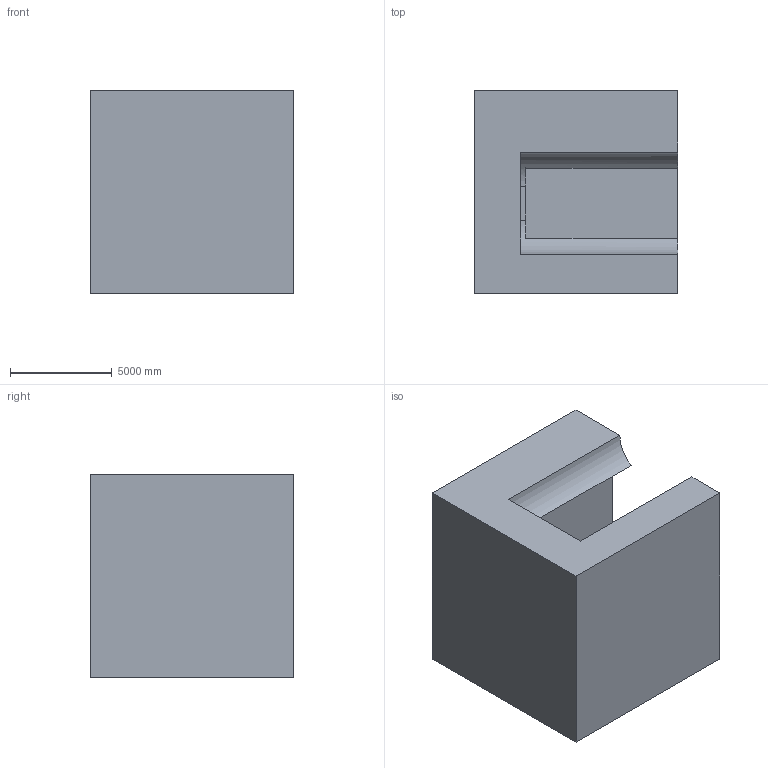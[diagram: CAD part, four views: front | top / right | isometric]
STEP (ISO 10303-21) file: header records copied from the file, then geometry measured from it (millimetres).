
FILE_DESCRIPTION (( 'STEP AP203' ), '1' );
FILE_NAME ('53.STEP', '2022-07-28T13:30:03', ( 'user' ), ( '' ), 'SwSTEP 2.0', 'SolidWorks 2021', '' );
FILE_SCHEMA (( 'CONFIG_CONTROL_DESIGN' ));
Length unit declared in the file: centimetre
Products named in the file (1): 53
Bounding box: 10000 x 10000 x 10000 mm (x, y, z)
Volume: 775933404465.2 mm3; surface area: 706789444.3 mm2
Topology: 1 solids, 1 shells, 16 faces, 42 edges, 28 vertices
Faces by surface type: plane 14, cylinder 2
Entity records: 569 total; most frequent: CARTESIAN_POINT 87, ORIENTED_EDGE 84, DIRECTION 82, EDGE_CURVE 42, VECTOR 36, LINE 36, VERTEX_POINT 28, AXIS2_PLACEMENT_3D 23
